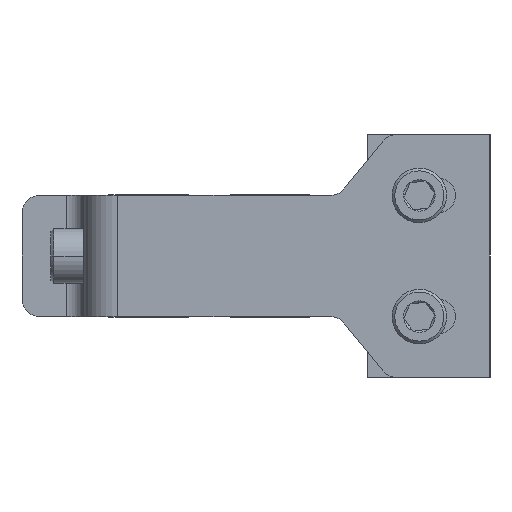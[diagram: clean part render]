
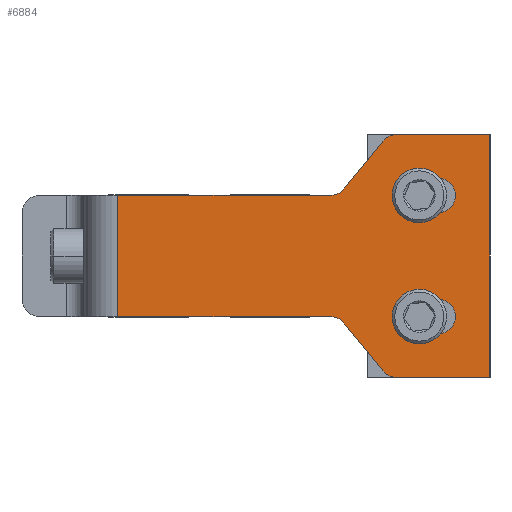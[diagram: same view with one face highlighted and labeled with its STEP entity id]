
A CAD part, left-side view. The second image highlights one B-rep face of the part: STEP entity #6884.
In plain terms, the highlighted planar face has unit normal (-1, 0, 0).
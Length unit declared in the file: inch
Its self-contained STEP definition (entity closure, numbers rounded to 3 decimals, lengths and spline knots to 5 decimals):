
#6247=DIRECTION('',(0.,-0.632,-0.775));
#6248=VECTOR('',#6247,0.446);
#6249=CARTESIAN_POINT('',(0.,1.05449,-0.48347));
#6250=LINE('',#6249,#6248);
#6251=CARTESIAN_POINT('',(0.,1.15134,-0.5625));
#6252=DIRECTION('',(1.,0.,0.));
#6253=DIRECTION('',(0.,0.,1.));
#6254=AXIS2_PLACEMENT_3D('',#6251,#6252,#6253);
#6256=DIRECTION('',(0.,-1.,0.));
#6257=VECTOR('',#6256,1.53666);
#6258=CARTESIAN_POINT('',(0.,2.688,-0.4375));
#6259=LINE('',#6258,#6257);
#6260=DIRECTION('',(0.,1.,0.));
#6261=VECTOR('',#6260,1.53666);
#6262=CARTESIAN_POINT('',(0.,1.15134,0.4375));
#6263=LINE('',#6262,#6261);
#6264=CARTESIAN_POINT('',(0.,1.15134,0.5625));
#6265=DIRECTION('',(1.,0.,0.));
#6266=DIRECTION('',(0.,-0.775,-0.632));
#6267=AXIS2_PLACEMENT_3D('',#6264,#6265,#6266);
#6269=DIRECTION('',(0.,0.632,-0.775));
#6270=VECTOR('',#6269,0.446);
#6271=CARTESIAN_POINT('',(0.,0.77251,0.82903));
#6272=LINE('',#6271,#6270);
#6273=CARTESIAN_POINT('',(0.,0.67566,0.75));
#6274=DIRECTION('',(-1.,0.,0.));
#6275=DIRECTION('',(0.,0.,1.));
#6276=AXIS2_PLACEMENT_3D('',#6273,#6274,#6275);
#6278=DIRECTION('',(0.,0.,1.));
#6279=VECTOR('',#6278,1.75);
#6280=CARTESIAN_POINT('',(0.,0.,-0.875));
#6281=LINE('',#6280,#6279);
#6282=DIRECTION('',(0.,-1.,0.));
#6283=VECTOR('',#6282,0.67566);
#6284=CARTESIAN_POINT('',(0.,0.67566,-0.875));
#6285=LINE('',#6284,#6283);
#6286=CARTESIAN_POINT('',(0.,0.67566,-0.75));
#6287=DIRECTION('',(-1.,0.,0.));
#6288=DIRECTION('',(0.,0.775,-0.632));
#6289=AXIS2_PLACEMENT_3D('',#6286,#6287,#6288);
#6291=CARTESIAN_POINT('',(0.,0.51,0.4375));
#6292=DIRECTION('',(1.,0.,0.));
#6293=DIRECTION('',(0.,0.,-1.));
#6294=AXIS2_PLACEMENT_3D('',#6291,#6292,#6293);
#6296=DIRECTION('',(0.,1.,0.));
#6297=VECTOR('',#6296,0.135);
#6298=CARTESIAN_POINT('',(0.,0.375,0.3125));
#6299=LINE('',#6298,#6297);
#6300=CARTESIAN_POINT('',(0.,0.375,0.4375));
#6301=DIRECTION('',(1.,0.,0.));
#6302=DIRECTION('',(0.,0.,1.));
#6303=AXIS2_PLACEMENT_3D('',#6300,#6301,#6302);
#6305=DIRECTION('',(0.,-1.,0.));
#6306=VECTOR('',#6305,0.135);
#6307=CARTESIAN_POINT('',(0.,0.51,0.5625));
#6308=LINE('',#6307,#6306);
#6309=CARTESIAN_POINT('',(0.,0.51,-0.4375));
#6310=DIRECTION('',(1.,0.,0.));
#6311=DIRECTION('',(0.,0.,-1.));
#6312=AXIS2_PLACEMENT_3D('',#6309,#6310,#6311);
#6314=DIRECTION('',(0.,1.,0.));
#6315=VECTOR('',#6314,0.135);
#6316=CARTESIAN_POINT('',(0.,0.375,-0.5625));
#6317=LINE('',#6316,#6315);
#6318=CARTESIAN_POINT('',(0.,0.375,-0.4375));
#6319=DIRECTION('',(1.,0.,0.));
#6320=DIRECTION('',(0.,0.,1.));
#6321=AXIS2_PLACEMENT_3D('',#6318,#6319,#6320);
#6323=DIRECTION('',(0.,-1.,0.));
#6324=VECTOR('',#6323,0.135);
#6325=CARTESIAN_POINT('',(0.,0.51,-0.3125));
#6326=LINE('',#6325,#6324);
#6441=DIRECTION('',(0.,-1.,0.));
#6442=VECTOR('',#6441,0.67566);
#6443=CARTESIAN_POINT('',(0.,0.67566,0.875));
#6444=LINE('',#6443,#6442);
#6457=DIRECTION('',(0.,0.,1.));
#6458=VECTOR('',#6457,0.875);
#6459=CARTESIAN_POINT('',(0.,2.688,-0.4375));
#6460=LINE('',#6459,#6458);
#6655=CARTESIAN_POINT('',(0.,0.,-0.875));
#6656=CARTESIAN_POINT('',(0.,0.,0.875));
#6657=VERTEX_POINT('',#6655);
#6658=VERTEX_POINT('',#6656);
#6669=CARTESIAN_POINT('',(0.,1.15134,0.4375));
#6670=VERTEX_POINT('',#6669);
#6675=CARTESIAN_POINT('',(0.,2.688,-0.4375));
#6677=VERTEX_POINT('',#6675);
#6687=CARTESIAN_POINT('',(0.,2.688,0.4375));
#6688=VERTEX_POINT('',#6687);
#6689=CARTESIAN_POINT('',(0.,0.51,-0.5625));
#6691=VERTEX_POINT('',#6689);
#6693=CARTESIAN_POINT('',(0.,1.05449,0.48347));
#6694=VERTEX_POINT('',#6693);
#6707=CARTESIAN_POINT('',(0.,0.67566,-0.875));
#6708=VERTEX_POINT('',#6707);
#6709=CARTESIAN_POINT('',(0.,1.15134,-0.4375));
#6710=CARTESIAN_POINT('',(0.,1.05449,-0.48347));
#6711=VERTEX_POINT('',#6709);
#6712=VERTEX_POINT('',#6710);
#6714=CARTESIAN_POINT('',(0.,0.77251,0.82903));
#6716=VERTEX_POINT('',#6714);
#6717=CARTESIAN_POINT('',(0.,0.51,-0.3125));
#6718=VERTEX_POINT('',#6717);
#6721=CARTESIAN_POINT('',(0.,0.375,0.3125));
#6722=VERTEX_POINT('',#6721);
#6723=CARTESIAN_POINT('',(0.,0.67566,0.875));
#6725=VERTEX_POINT('',#6723);
#6735=CARTESIAN_POINT('',(0.,0.51,0.5625));
#6736=CARTESIAN_POINT('',(0.,0.375,0.5625));
#6737=VERTEX_POINT('',#6735);
#6738=VERTEX_POINT('',#6736);
#6741=CARTESIAN_POINT('',(0.,0.51,0.3125));
#6742=VERTEX_POINT('',#6741);
#6743=CARTESIAN_POINT('',(0.,0.375,-0.3125));
#6744=VERTEX_POINT('',#6743);
#6747=CARTESIAN_POINT('',(0.,0.77251,-0.82903));
#6748=VERTEX_POINT('',#6747);
#6763=CARTESIAN_POINT('',(0.,0.375,-0.5625));
#6764=VERTEX_POINT('',#6763);
#6834=CARTESIAN_POINT('',(0.,0.,0.875));
#6835=DIRECTION('',(-1.,0.,0.));
#6836=DIRECTION('',(0.,0.,1.));
#6837=AXIS2_PLACEMENT_3D('',#6834,#6835,#6836);
#6838=PLANE('',#6837);
#6840=ORIENTED_EDGE('',*,*,#6839,.F.);
#6842=ORIENTED_EDGE('',*,*,#6841,.F.);
#6844=ORIENTED_EDGE('',*,*,#6843,.F.);
#6846=ORIENTED_EDGE('',*,*,#6845,.T.);
#6848=ORIENTED_EDGE('',*,*,#6847,.F.);
#6850=ORIENTED_EDGE('',*,*,#6849,.F.);
#6852=ORIENTED_EDGE('',*,*,#6851,.F.);
#6854=ORIENTED_EDGE('',*,*,#6853,.F.);
#6856=ORIENTED_EDGE('',*,*,#6855,.T.);
#6858=ORIENTED_EDGE('',*,*,#6857,.F.);
#6859=ORIENTED_EDGE('',*,*,#6824,.F.);
#6861=ORIENTED_EDGE('',*,*,#6860,.F.);
#6862=EDGE_LOOP('',(#6840,#6842,#6844,#6846,#6848,#6850,#6852,#6854,#6856,#6858,
#6859,#6861));
#6863=FACE_OUTER_BOUND('',#6862,.F.);
#6865=ORIENTED_EDGE('',*,*,#6864,.F.);
#6867=ORIENTED_EDGE('',*,*,#6866,.F.);
#6869=ORIENTED_EDGE('',*,*,#6868,.F.);
#6871=ORIENTED_EDGE('',*,*,#6870,.F.);
#6872=EDGE_LOOP('',(#6865,#6867,#6869,#6871));
#6873=FACE_BOUND('',#6872,.F.);
#6875=ORIENTED_EDGE('',*,*,#6874,.F.);
#6877=ORIENTED_EDGE('',*,*,#6876,.F.);
#6879=ORIENTED_EDGE('',*,*,#6878,.F.);
#6881=ORIENTED_EDGE('',*,*,#6880,.F.);
#6882=EDGE_LOOP('',(#6875,#6877,#6879,#6881));
#6883=FACE_BOUND('',#6882,.F.);
#6255=CIRCLE('',#6254,0.125);
#6268=CIRCLE('',#6267,0.125);
#6277=CIRCLE('',#6276,0.125);
#6290=CIRCLE('',#6289,0.125);
#6295=CIRCLE('',#6294,0.125);
#6304=CIRCLE('',#6303,0.125);
#6313=CIRCLE('',#6312,0.125);
#6322=CIRCLE('',#6321,0.125);
#6824=EDGE_CURVE('',#6708,#6657,#6285,.T.);
#6839=EDGE_CURVE('',#6712,#6748,#6250,.T.);
#6841=EDGE_CURVE('',#6711,#6712,#6255,.T.);
#6843=EDGE_CURVE('',#6677,#6711,#6259,.T.);
#6845=EDGE_CURVE('',#6677,#6688,#6460,.T.);
#6847=EDGE_CURVE('',#6670,#6688,#6263,.T.);
#6849=EDGE_CURVE('',#6694,#6670,#6268,.T.);
#6851=EDGE_CURVE('',#6716,#6694,#6272,.T.);
#6853=EDGE_CURVE('',#6725,#6716,#6277,.T.);
#6855=EDGE_CURVE('',#6725,#6658,#6444,.T.);
#6857=EDGE_CURVE('',#6657,#6658,#6281,.T.);
#6860=EDGE_CURVE('',#6748,#6708,#6290,.T.);
#6864=EDGE_CURVE('',#6742,#6737,#6295,.T.);
#6866=EDGE_CURVE('',#6722,#6742,#6299,.T.);
#6868=EDGE_CURVE('',#6738,#6722,#6304,.T.);
#6870=EDGE_CURVE('',#6737,#6738,#6308,.T.);
#6874=EDGE_CURVE('',#6691,#6718,#6313,.T.);
#6876=EDGE_CURVE('',#6764,#6691,#6317,.T.);
#6878=EDGE_CURVE('',#6744,#6764,#6322,.T.);
#6880=EDGE_CURVE('',#6718,#6744,#6326,.T.);
#6884=ADVANCED_FACE('',(#6863,#6873,#6883),#6838,.T.);
